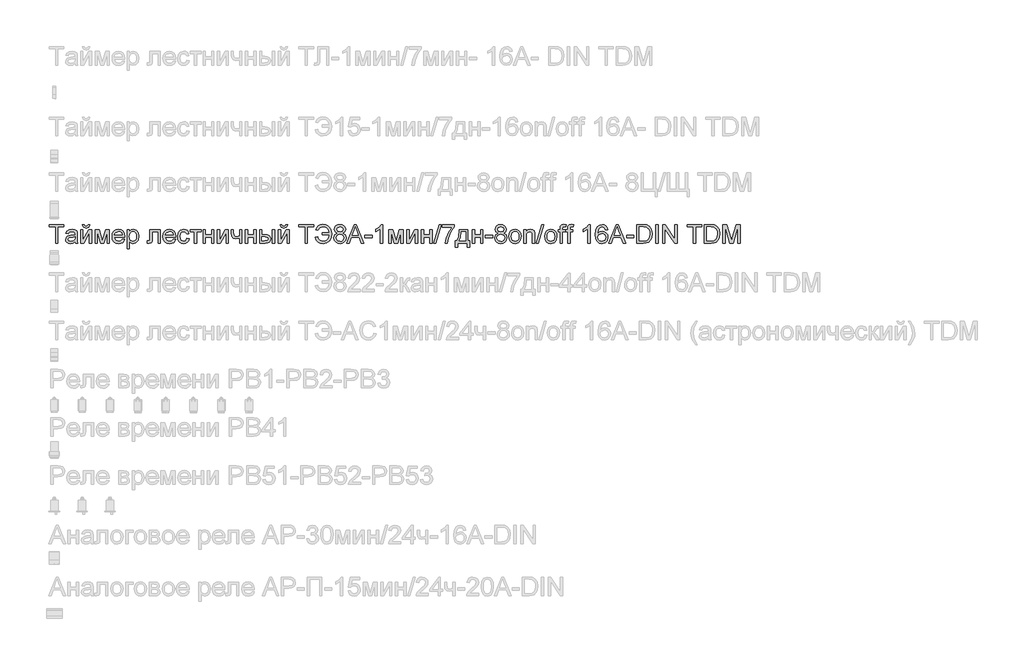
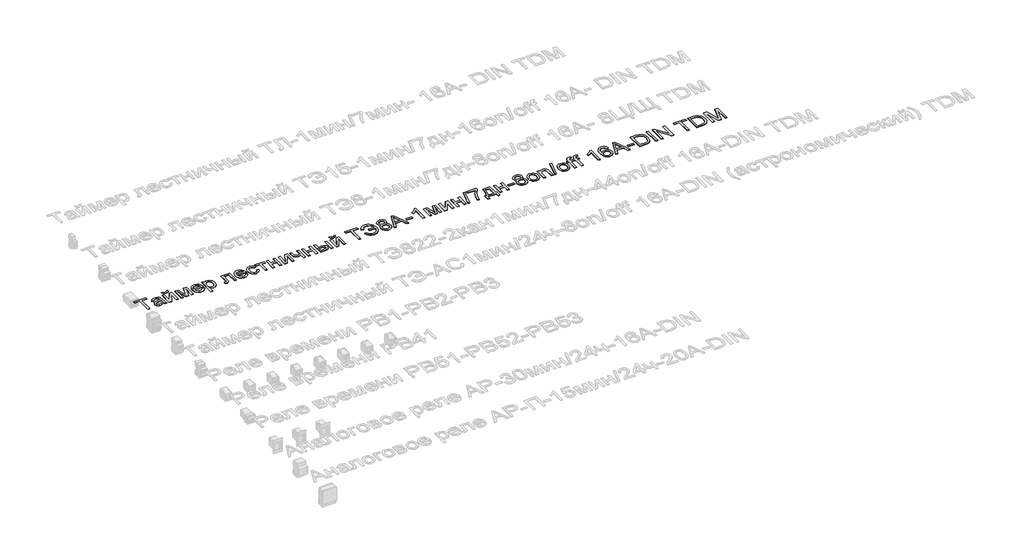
# One storey, part 30 of 34: 1 proxy.
"""IFC4 building model written with IfcOpenShell, lengths in millimetres."""

from ifc_helpers import new_model, si_unit, frame, origin, place, context, project, spatial, polyline, outline, extrude, element, save

model = new_model("IFC4")

# Units and contexts
model_context = context("Model", 3, world=origin())
ifc_project = project(units=[si_unit("LENGTHUNIT", "METRE", prefix="MILLI")], contexts=[model_context])

# Site, building, storey
site = spatial("IfcSite", under=ifc_project)
building = spatial("IfcBuilding", under=site)
storey = spatial("IfcBuildingStorey", under=building, Name="Этаж 01", Elevation=0.0)

# Proxy
placement = place(None, origin())
element("IfcBuildingElementProxy", 1, Name="Надпись на модели 1", ObjectType="Надпись на модели 1", at=placement, inside=storey, context=model_context, shape_type="SweptSolid", body=[
    extrude(outline(polyline([(-19013.8985135, 17576.235284), (-19013.8985135, 17664.1345554), (-19046.8607403, 17664.1345554), (-19046.8607403, 17676.6915941), (-18968.379248, 17676.6915941), (-18968.379248, 17664.1345554), (-19001.3414748, 17664.1345554), (-19001.3414748, 17576.235284), (-19013.8985135, 17576.235284)])), frame((0.0, 0.0, 40.0), z_axis=(0.0, 0.0, 1.0), x_axis=(1.0, 0.0, 0.0)), (0.0, 0.0, 1.0), 2.0),
    extrude(outline(polyline([(-18908.7333139, 17585.6530631), (-18920.9102079, 17577.1427262), (-18934.3624262, 17574.6656541), (-18944.8562601, 17576.1555762), (-18952.5971104, 17580.6253425), (-18957.3703793, 17587.4127653), (-18958.9614689, 17595.8556571), (-18956.5579732, 17605.7884709), (-18950.2426656, 17612.998958), (-18941.450286, 17617.1192364), (-18930.5855044, 17619.0076973), (-18908.8068903, 17623.3241794), (-18908.7333139, 17626.1200825), (-18912.1914046, 17635.3907088), (-18926.0728186, 17639.0204778), (-18938.7770101, 17636.6047194), (-18944.8348003, 17628.0330689), (-18957.3918391, 17629.6026988), (-18951.9594483, 17641.8654319), (-18941.0210903, 17649.0513936), (-18924.4541378, 17651.5775166), (-18909.2360859, 17649.3456992), (-18900.63991, 17643.7416301), (-18896.7894117, 17635.2190306), (-18896.1762751, 17624.2316216), (-18896.1762751, 17608.6088996), (-18895.538613, 17586.7934973), (-18893.0370154, 17576.235284), (-18905.5940542, 17576.235284), (-18908.7333139, 17585.6530631)]), holes=[polyline([(-18908.7333139, 17610.7671406), (-18928.9913491, 17606.9166424), (-18939.794817, 17604.8810287), (-18944.6876475, 17601.5700907), (-18946.4044302, 17596.7385739), (-18942.6642965, 17589.9450197), (-18931.6891504, 17587.2226929), (-18918.9849588, 17590.2270625), (-18910.793453, 17597.4988633), (-18908.8068903, 17607.210948), (-18908.7333139, 17610.7671406)])]), frame((0.0, 0.0, 40.0), z_axis=(0.0, 0.0, 1.0), x_axis=(1.0, 0.0, 0.0)), (0.0, 0.0, 1.0), 2.0),
    extrude(outline(polyline([(-18878.9103468, 17650.0078868), (-18866.353308, 17650.0078868), (-18866.353308, 17593.746467), (-18835.5002713, 17650.0078868), (-18819.2644126, 17650.0078868), (-18819.2644126, 17576.235284), (-18831.8214514, 17576.235284), (-18831.8214514, 17632.1533473), (-18862.4782843, 17576.235284), (-18878.9103468, 17576.235284), (-18878.9103468, 17650.0078868)])), frame((0.0, 0.0, 40.0), z_axis=(0.0, 0.0, 1.0), x_axis=(1.0, 0.0, 0.0)), (0.0, 0.0, 1.0), 2.0),
    extrude(outline(polyline([(-18838.0999708, 17676.6915941), (-18828.6821917, 17676.6915941), (-18834.7767701, 17662.7243411), (-18848.3025648, 17657.856036), (-18862.9442682, 17662.6875529), (-18869.4925677, 17676.6915941), (-18860.0747886, 17676.6915941), (-18856.5431215, 17669.6159971), (-18849.4307362, 17667.2738151), (-18841.6316379, 17669.5424207), (-18838.0999708, 17676.6915941)])), frame((0.0, 0.0, 40.0), z_axis=(0.0, 0.0, 1.0), x_axis=(1.0, 0.0, 0.0)), (0.0, 0.0, 1.0), 2.0),
    extrude(outline(polyline([(-18800.4288545, 17650.0078868), (-18778.8219186, 17650.0078868), (-18762.169127, 17590.9505638), (-18744.2164856, 17650.0078868), (-18723.516992, 17650.0078868), (-18723.516992, 17576.235284), (-18736.0740308, 17576.235284), (-18736.0740308, 17635.6359635), (-18754.124774, 17576.235284), (-18770.6058874, 17576.235284), (-18787.8718157, 17638.4809176), (-18787.8718157, 17576.235284), (-18800.4288545, 17576.235284), (-18800.4288545, 17650.0078868)])), frame((0.0, 0.0, 40.0), z_axis=(0.0, 0.0, 1.0), x_axis=(1.0, 0.0, 0.0)), (0.0, 0.0, 1.0), 2.0),
    extrude(outline(polyline([(-18653.0308017, 17598.2101018), (-18640.7190176, 17596.640472), (-18645.1550614, 17587.3637143), (-18652.2337241, 17580.4291387), (-18661.7955903, 17576.1065253), (-18673.6812444, 17574.6656541), (-18688.4149183, 17577.1519233), (-18699.7518151, 17584.6107308), (-18706.9806963, 17596.5576985), (-18709.3903234, 17612.5084487), (-18706.9561709, 17628.9956935), (-18699.6537133, 17641.3258717), (-18688.4701006, 17649.0146054), (-18674.3924829, 17651.5775166), (-18660.753258, 17649.0207367), (-18649.8547538, 17641.3503971), (-18642.7086461, 17629.0447444), (-18640.3266102, 17612.5820251), (-18640.4001866, 17609.1975108), (-18696.8332846, 17609.1975108), (-18694.6597152, 17599.7981258), (-18689.6105348, 17592.8880756), (-18682.3234056, 17588.6390386), (-18673.4359897, 17587.2226929), (-18661.1242056, 17589.8469178), (-18653.0308017, 17598.2101018)]), holes=[polyline([(-18696.8332846, 17621.7545495), (-18652.8836489, 17621.7545495), (-18657.9113695, 17633.1343659), (-18665.2322212, 17637.5489499), (-18674.4415339, 17639.0204778), (-18689.9048404, 17634.323851), (-18694.7700798, 17628.8332123), (-18696.8332846, 17621.7545495)])]), frame((0.0, 0.0, 40.0), z_axis=(0.0, 0.0, 1.0), x_axis=(1.0, 0.0, 0.0)), (0.0, 0.0, 1.0), 2.0),
    extrude(outline(polyline([(-18627.7695714, 17547.9819468), (-18627.7695714, 17650.0078868), (-18615.2125326, 17650.0078868), (-18615.2125326, 17637.6961027), (-18606.5305175, 17648.1071631), (-18594.8073446, 17651.5775166), (-18578.890317, 17646.7214743), (-18568.4915192, 17633.036264), (-18564.9843776, 17613.6856711), (-18568.9452404, 17593.3417968), (-18580.4476841, 17579.4849083), (-18596.3279235, 17574.6656541), (-18607.2540188, 17577.890753), (-18615.2125326, 17586.0454705), (-18615.2125326, 17547.9819468), (-18627.7695714, 17547.9819468)]), holes=[polyline([(-18615.2125326, 17612.5329742), (-18613.8544349, 17601.2757851), (-18609.7801418, 17593.4031104), (-18603.7683369, 17588.7677973), (-18596.5977037, 17587.2226929), (-18589.3105745, 17588.8229796), (-18583.1454854, 17593.6238396), (-18578.9424336, 17601.7846886), (-18577.5414163, 17613.4649419), (-18578.9087111, 17624.6608173), (-18583.0105953, 17632.6438566), (-18589.0132032, 17637.4263225), (-18596.0826689, 17639.0204778), (-18603.1797257, 17637.325155), (-18609.4122598, 17632.2391864), (-18613.7624644, 17623.9219876), (-18615.2125326, 17612.5329742)])]), frame((0.0, 0.0, 40.0), z_axis=(0.0, 0.0, 1.0), x_axis=(1.0, 0.0, 0.0)), (0.0, 0.0, 1.0), 2.0),
    extrude(outline(polyline([(-18505.3384434, 17650.0078868), (-18448.8317689, 17650.0078868), (-18448.8317689, 17576.3088604), (-18461.3888077, 17576.3088604), (-18461.3888077, 17637.450848), (-18492.7814046, 17637.450848), (-18492.7814046, 17602.2568038), (-18493.6275332, 17586.0209451), (-18498.2751091, 17579.1660772), (-18509.262518, 17576.235284), (-18519.465112, 17576.8729461), (-18519.465112, 17588.7923228), (-18513.8487802, 17588.7923228), (-18508.1711348, 17589.564875), (-18505.9025291, 17592.0174216), (-18505.3384434, 17602.9680423), (-18505.3384434, 17650.0078868)])), frame((0.0, 0.0, 40.0), z_axis=(0.0, 0.0, 1.0), x_axis=(1.0, 0.0, 0.0)), (0.0, 0.0, 1.0), 2.0),
    extrude(outline(polyline([(-18378.3455787, 17598.2101018), (-18366.0337946, 17596.640472), (-18370.4698383, 17587.3637143), (-18377.548501, 17580.4291387), (-18387.1103672, 17576.1065253), (-18398.9960213, 17574.6656541), (-18413.7296952, 17577.1519233), (-18425.0665921, 17584.6107308), (-18432.2954733, 17596.5576985), (-18434.7051003, 17612.5084487), (-18432.2709478, 17628.9956935), (-18424.9684902, 17641.3258717), (-18413.7848775, 17649.0146054), (-18399.7072599, 17651.5775166), (-18386.0680349, 17649.0207367), (-18375.1695308, 17641.3503971), (-18368.023423, 17629.0447444), (-18365.6413871, 17612.5820251), (-18365.7149635, 17609.1975108), (-18422.1480616, 17609.1975108), (-18419.9744921, 17599.7981258), (-18414.9253117, 17592.8880756), (-18407.6381825, 17588.6390386), (-18398.7507667, 17587.2226929), (-18386.4389826, 17589.8469178), (-18378.3455787, 17598.2101018)]), holes=[polyline([(-18422.1480616, 17621.7545495), (-18378.1984259, 17621.7545495), (-18383.2261465, 17633.1343659), (-18390.5469982, 17637.5489499), (-18399.7563108, 17639.0204778), (-18415.2196173, 17634.323851), (-18420.0848567, 17628.8332123), (-18422.1480616, 17621.7545495)])]), frame((0.0, 0.0, 40.0), z_axis=(0.0, 0.0, 1.0), x_axis=(1.0, 0.0, 0.0)), (0.0, 0.0, 1.0), 2.0),
    extrude(outline(polyline([(-18305.995453, 17602.9189914), (-18293.4384142, 17601.3493615), (-18296.9394245, 17590.1810773), (-18303.5183809, 17581.7412512), (-18312.5560152, 17576.4345534), (-18323.4330595, 17574.6656541), (-18336.7902416, 17577.1335292), (-18347.2350246, 17584.5371544), (-18353.9764622, 17596.5515672), (-18356.223608, 17612.8518052), (-18352.3853725, 17633.7107144), (-18340.6867251, 17647.1138817), (-18323.6047378, 17651.5775166), (-18312.9944079, 17650.044675), (-18304.5116622, 17645.44615), (-18298.4262809, 17638.0271964), (-18295.008044, 17628.0330689), (-18307.5650828, 17626.4634391), (-18313.3898811, 17635.8689554), (-18323.5066359, 17639.0204778), (-18331.6214996, 17637.4692421), (-18338.0625002, 17632.8155349), (-18342.265552, 17624.8079701), (-18343.6665693, 17613.1951618), (-18342.2962088, 17601.4260036), (-18338.1851275, 17593.3908477), (-18331.8606229, 17588.7647316), (-18323.8499925, 17587.2226929), (-18312.0164549, 17591.0731911), (-18305.995453, 17602.9189914)])), frame((0.0, 0.0, 40.0), z_axis=(0.0, 0.0, 1.0), x_axis=(1.0, 0.0, 0.0)), (0.0, 0.0, 1.0), 2.0),
    extrude(outline(polyline([(-18288.7295246, 17650.0078868), (-18229.0835905, 17650.0078868), (-18229.0835905, 17637.450848), (-18252.6280382, 17637.450848), (-18252.6280382, 17576.235284), (-18265.185077, 17576.235284), (-18265.185077, 17637.450848), (-18288.7295246, 17637.450848), (-18288.7295246, 17650.0078868)])), frame((0.0, 0.0, 40.0), z_axis=(0.0, 0.0, 1.0), x_axis=(1.0, 0.0, 0.0)), (0.0, 0.0, 1.0), 2.0),
    extrude(outline(polyline([(-18218.0961816, 17650.0078868), (-18205.5391428, 17650.0078868), (-18205.5391428, 17621.7545495), (-18172.576916, 17621.7545495), (-18172.576916, 17650.0078868), (-18160.0198773, 17650.0078868), (-18160.0198773, 17576.235284), (-18172.576916, 17576.235284), (-18172.576916, 17609.1975108), (-18205.5391428, 17609.1975108), (-18205.5391428, 17576.235284), (-18218.0961816, 17576.235284), (-18218.0961816, 17650.0078868)])), frame((0.0, 0.0, 40.0), z_axis=(0.0, 0.0, 1.0), x_axis=(1.0, 0.0, 0.0)), (0.0, 0.0, 1.0), 2.0),
    extrude(outline(polyline([(-18141.1843191, 17650.0078868), (-18128.6272803, 17650.0078868), (-18128.6272803, 17593.746467), (-18097.7742437, 17650.0078868), (-18081.538385, 17650.0078868), (-18081.538385, 17576.235284), (-18094.0954237, 17576.235284), (-18094.0954237, 17632.1533473), (-18124.7522567, 17576.235284), (-18141.1843191, 17576.235284), (-18141.1843191, 17650.0078868)])), frame((0.0, 0.0, 40.0), z_axis=(0.0, 0.0, 1.0), x_axis=(1.0, 0.0, 0.0)), (0.0, 0.0, 1.0), 2.0),
    extrude(outline(polyline([(-18067.4117163, 17650.0078868), (-18054.8546776, 17650.0078868), (-18054.8546776, 17635.8566927), (-18053.8368707, 17622.5884154), (-18048.9440402, 17615.4024537), (-18039.2319555, 17612.3367705), (-18021.8924508, 17616.1382177), (-18021.8924508, 17650.0078868), (-18009.335412, 17650.0078868), (-18009.335412, 17576.235284), (-18021.8924508, 17576.235284), (-18021.8924508, 17604.0962138), (-18042.5919444, 17599.7797317), (-18056.8289776, 17604.2801548), (-18065.2044244, 17615.3043519), (-18067.4117163, 17629.6517497), (-18067.4117163, 17650.0078868)])), frame((0.0, 0.0, 40.0), z_axis=(0.0, 0.0, 1.0), x_axis=(1.0, 0.0, 0.0)), (0.0, 0.0, 1.0), 2.0),
    extrude(outline(polyline([(-17990.4998539, 17650.0078868), (-17977.9428151, 17650.0078868), (-17977.9428151, 17621.7545495), (-17944.9805884, 17621.7545495), (-17944.9805884, 17650.0078868), (-17932.4235496, 17650.0078868), (-17932.4235496, 17576.235284), (-17944.9805884, 17576.235284), (-17944.9805884, 17609.1975108), (-17977.9428151, 17609.1975108), (-17977.9428151, 17576.235284), (-17990.4998539, 17576.235284), (-17990.4998539, 17650.0078868)])), frame((0.0, 0.0, 40.0), z_axis=(0.0, 0.0, 1.0), x_axis=(1.0, 0.0, 0.0)), (0.0, 0.0, 1.0), 2.0),
    extrude(outline(polyline([(-17844.5242782, 17650.0078868), (-17831.9672394, 17650.0078868), (-17831.9672394, 17576.235284), (-17844.5242782, 17576.235284), (-17844.5242782, 17650.0078868)])), frame((0.0, 0.0, 40.0), z_axis=(0.0, 0.0, 1.0), x_axis=(1.0, 0.0, 0.0)), (0.0, 0.0, 1.0), 2.0),
    extrude(outline(polyline([(-17913.5879914, 17650.0078868), (-17901.0309527, 17650.0078868), (-17901.0309527, 17623.3241794), (-17885.5063325, 17623.3241794), (-17872.0878367, 17621.7514838), (-17862.1458258, 17617.0333973), (-17855.9929994, 17609.5500643), (-17853.9420573, 17599.6816298), (-17855.6619056, 17590.6961121), (-17860.8214506, 17583.1146773), (-17869.7579174, 17577.9551323), (-17882.8085312, 17576.235284), (-17913.5879914, 17576.235284), (-17913.5879914, 17650.0078868)]), holes=[polyline([(-17901.0309527, 17588.7923228), (-17888.1305574, 17588.7923228), (-17871.4777657, 17591.4288104), (-17866.499096, 17599.6571044), (-17870.1901787, 17607.3826263), (-17886.4873511, 17610.7671406), (-17901.0309527, 17610.7671406), (-17901.0309527, 17588.7923228)])]), frame((0.0, 0.0, 40.0), z_axis=(0.0, 0.0, 1.0), x_axis=(1.0, 0.0, 0.0)), (0.0, 0.0, 1.0), 2.0),
    extrude(outline(polyline([(-17813.1316813, 17650.0078868), (-17800.5746425, 17650.0078868), (-17800.5746425, 17593.746467), (-17769.7216059, 17650.0078868), (-17753.4857471, 17650.0078868), (-17753.4857471, 17576.235284), (-17766.0427859, 17576.235284), (-17766.0427859, 17632.1533473), (-17796.6996188, 17576.235284), (-17813.1316813, 17576.235284), (-17813.1316813, 17650.0078868)])), frame((0.0, 0.0, 40.0), z_axis=(0.0, 0.0, 1.0), x_axis=(1.0, 0.0, 0.0)), (0.0, 0.0, 1.0), 2.0),
    extrude(outline(polyline([(-17772.3213053, 17676.6915941), (-17762.9035262, 17676.6915941), (-17768.9981046, 17662.7243411), (-17782.5238993, 17657.856036), (-17797.1656027, 17662.6875529), (-17803.7139022, 17676.6915941), (-17794.2961231, 17676.6915941), (-17790.764456, 17669.6159971), (-17783.6520707, 17667.2738151), (-17775.8529724, 17669.5424207), (-17772.3213053, 17676.6915941)])), frame((0.0, 0.0, 40.0), z_axis=(0.0, 0.0, 1.0), x_axis=(1.0, 0.0, 0.0)), (0.0, 0.0, 1.0), 2.0),
    extrude(outline(polyline([(-17668.7257354, 17576.235284), (-17668.7257354, 17664.1345554), (-17701.6879622, 17664.1345554), (-17701.6879622, 17676.6915941), (-17623.2064699, 17676.6915941), (-17623.2064699, 17664.1345554), (-17656.1686967, 17664.1345554), (-17656.1686967, 17576.235284), (-17668.7257354, 17576.235284)])), frame((0.0, 0.0, 40.0), z_axis=(0.0, 0.0, 1.0), x_axis=(1.0, 0.0, 0.0)), (0.0, 0.0, 1.0), 2.0),
    extrude(outline(polyline([(-17576.1175745, 17634.3115883), (-17538.4464582, 17634.3115883), (-17541.2117045, 17647.2641002), (-17547.8397118, 17657.2306366), (-17558.0300431, 17663.5857981), (-17571.4822614, 17665.7041852), (-17589.6985515, 17660.6028882), (-17599.6620222, 17645.2989972), (-17612.219061, 17648.4382569), (-17606.8479839, 17660.933982), (-17598.0923924, 17670.3640238), (-17586.3753508, 17676.2869239), (-17572.1199235, 17678.261224), (-17558.4285819, 17676.4494052), (-17546.7851168, 17671.0139487), (-17537.5359503, 17662.7611293), (-17531.0275046, 17652.4972216), (-17525.8894194, 17627.5670851), (-17528.2132074, 17606.9748904), (-17536.7051501, 17589.9327569), (-17551.3161967, 17578.4824298), (-17571.9972962, 17574.6656541), (-17587.0252757, 17576.7257933), (-17598.9998346, 17582.9062108), (-17607.920973, 17593.2069067), (-17613.7886908, 17607.6278809), (-17601.2316521, 17610.7671406), (-17596.9887464, 17600.4664447), (-17590.4649723, 17593.1088048), (-17581.6603299, 17588.6942209), (-17570.5748191, 17587.2226929), (-17558.0545686, 17589.5342181), (-17548.0113901, 17596.4687937), (-17541.2178359, 17607.4132831), (-17538.4464582, 17621.7545495), (-17576.1175745, 17621.7545495), (-17576.1175745, 17634.3115883)])), frame((0.0, 0.0, 40.0), z_axis=(0.0, 0.0, 1.0), x_axis=(1.0, 0.0, 0.0)), (0.0, 0.0, 1.0), 2.0),
    extrude(outline(polyline([(-17495.0363828, 17631.5647361), (-17506.4775128, 17639.3638344), (-17510.193121, 17651.5039402), (-17508.16977, 17661.3202581), (-17502.0997171, 17669.4320561), (-17492.6635439, 17674.8767096), (-17480.5418322, 17676.6915941), (-17468.346544, 17674.8337901), (-17458.7877435, 17669.2603778), (-17452.607326, 17661.0198211), (-17450.5471868, 17651.1605837), (-17454.2137441, 17639.3270462), (-17465.336043, 17631.5647361), (-17451.9819266, 17621.7177613), (-17447.4079271, 17605.4696399), (-17449.6765328, 17593.4644241), (-17456.4823497, 17583.543873), (-17466.991512, 17576.8852089), (-17480.3701539, 17574.6656541), (-17493.7487958, 17576.8944059), (-17504.2579581, 17583.5806612), (-17511.063775, 17593.5962485), (-17513.3323807, 17605.8129964), (-17508.5744402, 17622.4412626), (-17495.0363828, 17631.5647361)]), holes=[polyline([(-17497.6360822, 17651.1360582), (-17493.1847101, 17641.2768207), (-17480.2230011, 17637.450848), (-17467.5188095, 17641.2522953), (-17463.1042256, 17650.5719725), (-17467.6659623, 17660.2227435), (-17480.3701539, 17664.1345554), (-17493.1111337, 17660.3085826), (-17497.6360822, 17651.1360582)]), polyline([(-17500.7753419, 17606.2544548), (-17498.6784145, 17596.7998875), (-17491.259461, 17589.7242905), (-17480.272052, 17587.2226929), (-17471.724927, 17588.537871), (-17465.3115176, 17592.4834054), (-17459.9649659, 17605.8620473), (-17465.4831958, 17619.4982066), (-17472.0437581, 17623.5449086), (-17480.688985, 17624.8938092), (-17489.1165483, 17623.5633027), (-17495.4655784, 17619.571783), (-17500.7753419, 17606.2544548)])]), frame((0.0, 0.0, 40.0), z_axis=(0.0, 0.0, 1.0), x_axis=(1.0, 0.0, 0.0)), (0.0, 0.0, 1.0), 2.0),
    extrude(outline(polyline([(-17443.4102761, 17576.235284), (-17403.3111387, 17676.6915941), (-17392.6180353, 17676.6915941), (-17352.5188979, 17576.235284), (-17365.7871751, 17576.235284), (-17377.2896189, 17607.6278809), (-17418.6640806, 17607.6278809), (-17430.1419988, 17576.235284), (-17443.4102761, 17576.235284)]), holes=[polyline([(-17414.0532929, 17620.1849197), (-17381.8758811, 17620.1849197), (-17390.9257782, 17644.8820643), (-17397.964587, 17664.1345554), (-17404.2185809, 17647.0403053), (-17414.0532929, 17620.1849197)])]), frame((0.0, 0.0, 40.0), z_axis=(0.0, 0.0, 1.0), x_axis=(1.0, 0.0, 0.0)), (0.0, 0.0, 1.0), 2.0),
    extrude(outline(polyline([(-17346.951617, 17606.0582511), (-17346.951617, 17618.6152898), (-17307.7108708, 17618.6152898), (-17307.7108708, 17606.0582511), (-17346.951617, 17606.0582511)])), frame((0.0, 0.0, 40.0), z_axis=(0.0, 0.0, 1.0), x_axis=(1.0, 0.0, 0.0)), (0.0, 0.0, 1.0), 2.0),
    extrude(outline(polyline([(-17249.6345665, 17576.235284), (-17262.1916053, 17576.235284), (-17262.1916053, 17654.5205726), (-17274.0864565, 17646.0470239), (-17287.3056828, 17639.7071909), (-17287.3056828, 17651.5775166), (-17268.8993204, 17663.325215), (-17257.7279704, 17676.6915941), (-17249.6345665, 17676.6915941), (-17249.6345665, 17576.235284)])), frame((0.0, 0.0, 40.0), z_axis=(0.0, 0.0, 1.0), x_axis=(1.0, 0.0, 0.0)), (0.0, 0.0, 1.0), 2.0),
    extrude(outline(polyline([(-17216.6723398, 17650.0078868), (-17195.0654039, 17650.0078868), (-17178.4126123, 17590.9505638), (-17160.4599709, 17650.0078868), (-17139.7604773, 17650.0078868), (-17139.7604773, 17576.235284), (-17152.3175161, 17576.235284), (-17152.3175161, 17635.6359635), (-17170.3682593, 17576.235284), (-17186.8493727, 17576.235284), (-17204.115301, 17638.4809176), (-17204.115301, 17576.235284), (-17216.6723398, 17576.235284), (-17216.6723398, 17650.0078868)])), frame((0.0, 0.0, 40.0), z_axis=(0.0, 0.0, 1.0), x_axis=(1.0, 0.0, 0.0)), (0.0, 0.0, 1.0), 2.0),
    extrude(outline(polyline([(-17120.9249192, 17650.0078868), (-17108.3678804, 17650.0078868), (-17108.3678804, 17593.746467), (-17077.5148437, 17650.0078868), (-17061.278985, 17650.0078868), (-17061.278985, 17576.235284), (-17073.8360238, 17576.235284), (-17073.8360238, 17632.1533473), (-17104.4928567, 17576.235284), (-17120.9249192, 17576.235284), (-17120.9249192, 17650.0078868)])), frame((0.0, 0.0, 40.0), z_axis=(0.0, 0.0, 1.0), x_axis=(1.0, 0.0, 0.0)), (0.0, 0.0, 1.0), 2.0),
    extrude(outline(polyline([(-17042.4434269, 17650.0078868), (-17029.8863881, 17650.0078868), (-17029.8863881, 17621.7545495), (-16996.9241613, 17621.7545495), (-16996.9241613, 17650.0078868), (-16984.3671225, 17650.0078868), (-16984.3671225, 17576.235284), (-16996.9241613, 17576.235284), (-16996.9241613, 17609.1975108), (-17029.8863881, 17609.1975108), (-17029.8863881, 17576.235284), (-17042.4434269, 17576.235284), (-17042.4434269, 17650.0078868)])), frame((0.0, 0.0, 40.0), z_axis=(0.0, 0.0, 1.0), x_axis=(1.0, 0.0, 0.0)), (0.0, 0.0, 1.0), 2.0),
    extrude(outline(polyline([(-16974.9493435, 17576.235284), (-16946.6960062, 17676.6915941), (-16935.3652408, 17676.6915941), (-16963.618578, 17576.235284), (-16974.9493435, 17576.235284)])), frame((0.0, 0.0, 40.0), z_axis=(0.0, 0.0, 1.0), x_axis=(1.0, 0.0, 0.0)), (0.0, 0.0, 1.0), 2.0),
    extrude(outline(polyline([(-16929.4300779, 17662.5649255), (-16929.4300779, 17675.1219643), (-16863.5056244, 17675.1219643), (-16863.5056244, 17664.9684212), (-16882.2062925, 17637.9536201), (-16896.5169021, 17603.532128), (-16901.1767407, 17576.235284), (-16913.7337795, 17576.235284), (-16908.7428471, 17604.5621976), (-16895.0453741, 17636.5801939), (-16876.0626632, 17662.5649255), (-16929.4300779, 17662.5649255)])), frame((0.0, 0.0, 40.0), z_axis=(0.0, 0.0, 1.0), x_axis=(1.0, 0.0, 0.0)), (0.0, 0.0, 1.0), 2.0),
    extrude(outline(polyline([(-16838.3915469, 17650.0078868), (-16791.3026515, 17650.0078868), (-16791.3026515, 17588.7923228), (-16781.8848724, 17588.7923228), (-16781.8848724, 17555.830096), (-16794.4419112, 17555.830096), (-16794.4419112, 17576.235284), (-16846.2396961, 17576.235284), (-16846.2396961, 17555.830096), (-16858.7967349, 17555.830096), (-16858.7967349, 17588.7923228), (-16850.9485856, 17588.7923228), (-16841.2487637, 17612.7414406), (-16838.3915469, 17650.0078868)]), holes=[polyline([(-16827.4041379, 17637.450848), (-16830.3471939, 17608.8418915), (-16836.821917, 17588.7923228), (-16803.8596902, 17588.7923228), (-16803.8596902, 17637.450848), (-16827.4041379, 17637.450848)])]), frame((0.0, 0.0, 40.0), z_axis=(0.0, 0.0, 1.0), x_axis=(1.0, 0.0, 0.0)), (0.0, 0.0, 1.0), 2.0),
    extrude(outline(polyline([(-16767.7582038, 17650.0078868), (-16755.201165, 17650.0078868), (-16755.201165, 17621.7545495), (-16722.2389383, 17621.7545495), (-16722.2389383, 17650.0078868), (-16709.6818995, 17650.0078868), (-16709.6818995, 17576.235284), (-16722.2389383, 17576.235284), (-16722.2389383, 17609.1975108), (-16755.201165, 17609.1975108), (-16755.201165, 17576.235284), (-16767.7582038, 17576.235284), (-16767.7582038, 17650.0078868)])), frame((0.0, 0.0, 40.0), z_axis=(0.0, 0.0, 1.0), x_axis=(1.0, 0.0, 0.0)), (0.0, 0.0, 1.0), 2.0),
    extrude(outline(polyline([(-16697.1248607, 17606.0582511), (-16697.1248607, 17618.6152898), (-16657.8841146, 17618.6152898), (-16657.8841146, 17606.0582511), (-16697.1248607, 17606.0582511)])), frame((0.0, 0.0, 40.0), z_axis=(0.0, 0.0, 1.0), x_axis=(1.0, 0.0, 0.0)), (0.0, 0.0, 1.0), 2.0),
    extrude(outline(polyline([(-16628.6007077, 17631.5647361), (-16640.0418378, 17639.3638344), (-16643.7574459, 17651.5039402), (-16641.734095, 17661.3202581), (-16635.6640421, 17669.4320561), (-16626.2278689, 17674.8767096), (-16614.1061571, 17676.6915941), (-16601.910869, 17674.8337901), (-16592.3520685, 17669.2603778), (-16586.171651, 17661.0198211), (-16584.1115118, 17651.1605837), (-16587.778069, 17639.3270462), (-16598.900368, 17631.5647361), (-16585.5462516, 17621.7177613), (-16580.9722521, 17605.4696399), (-16583.2408577, 17593.4644241), (-16590.0466747, 17583.543873), (-16600.555837, 17576.8852089), (-16613.9344789, 17574.6656541), (-16627.3131208, 17576.8944059), (-16637.8222831, 17583.5806612), (-16644.6281, 17593.5962485), (-16646.8967056, 17605.8129964), (-16642.1387652, 17622.4412626), (-16628.6007077, 17631.5647361)]), holes=[polyline([(-16631.2004072, 17651.1360582), (-16626.749035, 17641.2768207), (-16613.7873261, 17637.450848), (-16601.0831345, 17641.2522953), (-16596.6685506, 17650.5719725), (-16601.2302873, 17660.2227435), (-16613.9344789, 17664.1345554), (-16626.6754586, 17660.3085826), (-16631.2004072, 17651.1360582)]), polyline([(-16634.3396669, 17606.2544548), (-16632.2427395, 17596.7998875), (-16624.8237859, 17589.7242905), (-16613.836377, 17587.2226929), (-16605.289252, 17588.537871), (-16598.8758425, 17592.4834054), (-16593.5292909, 17605.8620473), (-16599.0475208, 17619.4982066), (-16605.608083, 17623.5449086), (-16614.2533099, 17624.8938092), (-16622.6808733, 17623.5633027), (-16629.0299034, 17619.571783), (-16634.3396669, 17606.2544548)])]), frame((0.0, 0.0, 40.0), z_axis=(0.0, 0.0, 1.0), x_axis=(1.0, 0.0, 0.0)), (0.0, 0.0, 1.0), 2.0),
    extrude(outline(polyline([(-16569.9848432, 17613.1215854), (-16567.2686478, 17630.9086798), (-16559.1200616, 17643.4105363), (-16549.0523577, 17649.5357715), (-16536.9980909, 17651.5775166), (-16523.8064557, 17649.0912475), (-16513.2697023, 17641.63244), (-16506.3627178, 17629.7897054), (-16504.0603896, 17614.151655), (-16508.1316171, 17591.8089551), (-16519.98968, 17579.1660772), (-16536.9980909, 17574.6656541), (-16550.3491417, 17577.1427262), (-16560.8736324, 17584.5739426), (-16567.7070405, 17596.6649975), (-16569.9848432, 17613.1215854)]), holes=[polyline([(-16557.4278044, 17613.1461108), (-16555.9746705, 17601.7816229), (-16551.6152689, 17593.6851533), (-16545.0547066, 17588.838308), (-16536.9980909, 17587.2226929), (-16528.9782635, 17588.8475051), (-16522.4299639, 17593.7219415), (-16518.0705623, 17601.92571), (-16516.6174284, 17613.5385183), (-16518.0797593, 17624.5719125), (-16522.4667521, 17632.5580175), (-16529.0242487, 17637.4048627), (-16536.9980909, 17639.0204778), (-16545.0547066, 17637.4109941), (-16551.6152689, 17632.5825429), (-16555.9746705, 17624.5044674), (-16557.4278044, 17613.1461108)])]), frame((0.0, 0.0, 40.0), z_axis=(0.0, 0.0, 1.0), x_axis=(1.0, 0.0, 0.0)), (0.0, 0.0, 1.0), 2.0),
    extrude(outline(polyline([(-16489.933721, 17576.235284), (-16489.933721, 17650.0078868), (-16477.3766823, 17650.0078868), (-16477.3766823, 17639.7071909), (-16467.7749622, 17648.6099352), (-16454.6661004, 17651.5775166), (-16442.8080374, 17649.1862836), (-16434.7146336, 17642.9077643), (-16430.9499745, 17633.6739262), (-16430.2877869, 17621.5338203), (-16430.2877869, 17576.235284), (-16442.8448256, 17576.235284), (-16442.8448256, 17619.8415632), (-16444.2918282, 17630.9515994), (-16449.4053879, 17636.8254486), (-16458.0260893, 17639.0204778), (-16471.6499859, 17634.0908591), (-16475.9450082, 17626.947817), (-16477.3766823, 17615.3779283), (-16477.3766823, 17576.235284), (-16489.933721, 17576.235284)])), frame((0.0, 0.0, 40.0), z_axis=(0.0, 0.0, 1.0), x_axis=(1.0, 0.0, 0.0)), (0.0, 0.0, 1.0), 2.0),
    extrude(outline(polyline([(-16422.4396376, 17576.235284), (-16394.1863004, 17676.6915941), (-16382.855535, 17676.6915941), (-16411.1088722, 17576.235284), (-16422.4396376, 17576.235284)])), frame((0.0, 0.0, 40.0), z_axis=(0.0, 0.0, 1.0), x_axis=(1.0, 0.0, 0.0)), (0.0, 0.0, 1.0), 2.0),
    extrude(outline(polyline([(-16376.9203721, 17613.1215854), (-16374.2041767, 17630.9086798), (-16366.0555905, 17643.4105363), (-16355.9878866, 17649.5357715), (-16343.9336199, 17651.5775166), (-16330.7419847, 17649.0912475), (-16320.2052312, 17641.63244), (-16313.2982467, 17629.7897054), (-16310.9959186, 17614.151655), (-16315.067146, 17591.8089551), (-16326.925209, 17579.1660772), (-16343.9336199, 17574.6656541), (-16357.2846706, 17577.1427262), (-16367.8091614, 17584.5739426), (-16374.6425694, 17596.6649975), (-16376.9203721, 17613.1215854)]), holes=[polyline([(-16364.3633333, 17613.1461108), (-16362.9101995, 17601.7816229), (-16358.5507978, 17593.6851533), (-16351.9902356, 17588.838308), (-16343.9336199, 17587.2226929), (-16335.9137924, 17588.8475051), (-16329.3654929, 17593.7219415), (-16325.0060912, 17601.92571), (-16323.5529573, 17613.5385183), (-16325.0152883, 17624.5719125), (-16329.4022811, 17632.5580175), (-16335.9597776, 17637.4048627), (-16343.9336199, 17639.0204778), (-16351.9902356, 17637.4109941), (-16358.5507978, 17632.5825429), (-16362.9101995, 17624.5044674), (-16364.3633333, 17613.1461108)])]), frame((0.0, 0.0, 40.0), z_axis=(0.0, 0.0, 1.0), x_axis=(1.0, 0.0, 0.0)), (0.0, 0.0, 1.0), 2.0),
    extrude(outline(polyline([(-16252.9196143, 17576.235284), (-16252.9196143, 17637.450848), (-16263.9070232, 17637.450848), (-16263.9070232, 17650.0078868), (-16252.9196143, 17650.0078868), (-16252.9196143, 17657.4391031), (-16251.5952391, 17667.9114772), (-16245.1695669, 17675.3917444), (-16232.5144263, 17678.261224), (-16221.0610335, 17676.8877979), (-16222.9004435, 17665.115574), (-16230.135456, 17665.7041852), (-16238.0449189, 17663.6195206), (-16240.3625755, 17655.8449477), (-16240.3625755, 17650.0078868), (-16226.2359069, 17650.0078868), (-16226.2359069, 17637.450848), (-16240.3625755, 17637.450848), (-16240.3625755, 17576.235284), (-16252.9196143, 17576.235284)])), frame((0.0, 0.0, 40.0), z_axis=(0.0, 0.0, 1.0), x_axis=(1.0, 0.0, 0.0)), (0.0, 0.0, 1.0), 2.0),
    extrude(outline(polyline([(-16293.7299903, 17576.235284), (-16293.7299903, 17637.450848), (-16304.7173992, 17637.450848), (-16304.7173992, 17650.0078868), (-16293.7299903, 17650.0078868), (-16293.7299903, 17657.4391031), (-16292.4056151, 17667.9114772), (-16285.9799429, 17675.3917444), (-16273.3248023, 17678.261224), (-16261.8714095, 17676.8877979), (-16263.7108195, 17665.115574), (-16270.945832, 17665.7041852), (-16278.8552949, 17663.6195206), (-16281.1729515, 17655.8449477), (-16281.1729515, 17650.0078868), (-16267.0462829, 17650.0078868), (-16267.0462829, 17637.450848), (-16281.1729515, 17637.450848), (-16281.1729515, 17576.235284), (-16293.7299903, 17576.235284)])), frame((0.0, 0.0, 40.0), z_axis=(0.0, 0.0, 1.0), x_axis=(1.0, 0.0, 0.0)), (0.0, 0.0, 1.0), 2.0),
    extrude(outline(polyline([(-16132.0581161, 17576.235284), (-16144.6151549, 17576.235284), (-16144.6151549, 17654.5205726), (-16156.5100061, 17646.0470239), (-16169.7292324, 17639.7071909), (-16169.7292324, 17651.5775166), (-16151.3228699, 17663.325215), (-16140.15152, 17676.6915941), (-16132.0581161, 17676.6915941), (-16132.0581161, 17576.235284)])), frame((0.0, 0.0, 40.0), z_axis=(0.0, 0.0, 1.0), x_axis=(1.0, 0.0, 0.0)), (0.0, 0.0, 1.0), 2.0),
    extrude(outline(polyline([(-16037.8803254, 17650.0078868), (-16050.4373641, 17648.4382569), (-16055.1953046, 17658.910631), (-16067.7768688, 17664.1345554), (-16079.1076343, 17661.0933975), (-16087.6792848, 17649.676793), (-16091.2477401, 17627.2973049), (-16080.1744921, 17637.3159579), (-16066.4524936, 17640.5901077), (-16054.8519481, 17638.3521589), (-16045.1153379, 17631.6383125), (-16038.5118561, 17621.3805362), (-16036.3106955, 17608.5107977), (-16040.4554993, 17591.1835557), (-16051.8598412, 17578.9208226), (-16068.3164291, 17574.6656541), (-16082.5626594, 17577.4860828), (-16093.9087532, 17585.9473687), (-16101.3307725, 17600.8833777), (-16103.8047789, 17623.1279756), (-16101.0579267, 17648.13782), (-16092.81737, 17665.2382014), (-16081.5663123, 17673.8282459), (-16066.9920539, 17676.6915941), (-16055.9739882, 17674.9196292), (-16047.1509516, 17669.6037344), (-16040.9705341, 17661.1608426), (-16037.8803254, 17650.0078868)]), holes=[polyline([(-16091.2477401, 17608.7070014), (-16088.3414724, 17597.8299571), (-16080.6159505, 17589.9327569), (-16069.2974477, 17587.2226929), (-16061.0109058, 17588.6267759), (-16054.4963288, 17592.8390247), (-16050.2748829, 17599.4609006), (-16048.8677343, 17608.0938648), (-16050.2564888, 17616.3804067), (-16054.4227524, 17622.69878), (-16061.047694, 17626.6994967), (-16069.8124825, 17628.0330689), (-16085.0060089, 17622.69878), (-16089.6873073, 17616.5336909), (-16091.2477401, 17608.7070014)])]), frame((0.0, 0.0, 40.0), z_axis=(0.0, 0.0, 1.0), x_axis=(1.0, 0.0, 0.0)), (0.0, 0.0, 1.0), 2.0),
    extrude(outline(polyline([(-16032.3130445, 17576.235284), (-15992.213907, 17676.6915941), (-15981.5208037, 17676.6915941), (-15941.4216662, 17576.235284), (-15954.6899435, 17576.235284), (-15966.1923872, 17607.6278809), (-16007.566849, 17607.6278809), (-16019.0447672, 17576.235284), (-16032.3130445, 17576.235284)]), holes=[polyline([(-16002.9560613, 17620.1849197), (-15970.7786494, 17620.1849197), (-15979.8285465, 17644.8820643), (-15986.8673554, 17664.1345554), (-15993.1213493, 17647.0403053), (-16002.9560613, 17620.1849197)])]), frame((0.0, 0.0, 40.0), z_axis=(0.0, 0.0, 1.0), x_axis=(1.0, 0.0, 0.0)), (0.0, 0.0, 1.0), 2.0),
    extrude(outline(polyline([(-15935.8543854, 17606.0582511), (-15935.8543854, 17618.6152898), (-15896.6136392, 17618.6152898), (-15896.6136392, 17606.0582511), (-15935.8543854, 17606.0582511)])), frame((0.0, 0.0, 40.0), z_axis=(0.0, 0.0, 1.0), x_axis=(1.0, 0.0, 0.0)), (0.0, 0.0, 1.0), 2.0),
    extrude(outline(polyline([(-15880.9173407, 17576.235284), (-15880.9173407, 17676.6915941), (-15846.2628568, 17676.6915941), (-15828.3347409, 17675.2445916), (-15813.5704102, 17668.05863), (-15801.675559, 17650.8908035), (-15797.7269589, 17627.0029993), (-15800.4002347, 17606.7327014), (-15807.2673653, 17592.1032607), (-15816.4398897, 17582.99205), (-15828.4451055, 17577.9520666), (-15844.5951251, 17576.235284), (-15880.9173407, 17576.235284)]), holes=[polyline([(-15868.360302, 17588.7923228), (-15846.1402295, 17588.7923228), (-15829.9779472, 17590.6072073), (-15820.6582699, 17595.7330297), (-15813.0185872, 17608.2042294), (-15810.2839977, 17627.1992031), (-15811.6237013, 17640.8844133), (-15815.6428121, 17650.9889054), (-15828.6780974, 17662.1234671), (-15846.483586, 17664.1345554), (-15868.360302, 17664.1345554), (-15868.360302, 17588.7923228)])]), frame((0.0, 0.0, 40.0), z_axis=(0.0, 0.0, 1.0), x_axis=(1.0, 0.0, 0.0)), (0.0, 0.0, 1.0), 2.0),
    extrude(outline(polyline([(-15778.8914008, 17576.235284), (-15778.8914008, 17676.6915941), (-15766.334362, 17676.6915941), (-15766.334362, 17576.235284), (-15778.8914008, 17576.235284)])), frame((0.0, 0.0, 40.0), z_axis=(0.0, 0.0, 1.0), x_axis=(1.0, 0.0, 0.0)), (0.0, 0.0, 1.0), 2.0),
    extrude(outline(polyline([(-15741.2202844, 17576.235284), (-15741.2202844, 17676.6915941), (-15727.7803289, 17676.6915941), (-15675.2958309, 17597.1064559), (-15675.2958309, 17676.6915941), (-15662.7387921, 17676.6915941), (-15662.7387921, 17576.235284), (-15676.1787477, 17576.235284), (-15728.6632457, 17655.8449477), (-15728.6632457, 17576.235284), (-15741.2202844, 17576.235284)])), frame((0.0, 0.0, 40.0), z_axis=(0.0, 0.0, 1.0), x_axis=(1.0, 0.0, 0.0)), (0.0, 0.0, 1.0), 2.0),
    extrude(outline(polyline([(-15576.4091506, 17576.235284), (-15576.4091506, 17664.1345554), (-15609.3713774, 17664.1345554), (-15609.3713774, 17676.6915941), (-15530.8898851, 17676.6915941), (-15530.8898851, 17664.1345554), (-15563.8521118, 17664.1345554), (-15563.8521118, 17576.235284), (-15576.4091506, 17576.235284)])), frame((0.0, 0.0, 40.0), z_axis=(0.0, 0.0, 1.0), x_axis=(1.0, 0.0, 0.0)), (0.0, 0.0, 1.0), 2.0),
    extrude(outline(polyline([(-15516.7632165, 17576.235284), (-15516.7632165, 17676.6915941), (-15482.1087325, 17676.6915941), (-15464.1806166, 17675.2445916), (-15449.4162859, 17668.05863), (-15437.5214347, 17650.8908035), (-15433.5728346, 17627.0029993), (-15436.2461104, 17606.7327014), (-15443.113241, 17592.1032607), (-15452.2857654, 17582.99205), (-15464.2909812, 17577.9520666), (-15480.4410008, 17576.235284), (-15516.7632165, 17576.235284)]), holes=[polyline([(-15504.2061777, 17588.7923228), (-15481.9861052, 17588.7923228), (-15465.8238229, 17590.6072073), (-15456.5041456, 17595.7330297), (-15448.8644629, 17608.2042294), (-15446.1298734, 17627.1992031), (-15447.469577, 17640.8844133), (-15451.4886878, 17650.9889054), (-15464.5239731, 17662.1234671), (-15482.3294617, 17664.1345554), (-15504.2061777, 17664.1345554), (-15504.2061777, 17588.7923228)])]), frame((0.0, 0.0, 40.0), z_axis=(0.0, 0.0, 1.0), x_axis=(1.0, 0.0, 0.0)), (0.0, 0.0, 1.0), 2.0),
    extrude(outline(polyline([(-15416.3069063, 17576.235284), (-15416.3069063, 17676.6915941), (-15394.6999705, 17676.6915941), (-15374.1476297, 17605.8865728), (-15370.0028258, 17591.0977166), (-15365.5146655, 17607.1128461), (-15345.3056812, 17676.6915941), (-15323.6987454, 17676.6915941), (-15323.6987454, 17576.235284), (-15336.2557842, 17576.235284), (-15336.2557842, 17664.1345554), (-15361.492489, 17576.235284), (-15378.5131627, 17576.235284), (-15403.7498675, 17664.1345554), (-15403.7498675, 17576.235284), (-15416.3069063, 17576.235284)])), frame((0.0, 0.0, 40.0), z_axis=(0.0, 0.0, 1.0), x_axis=(1.0, 0.0, 0.0)), (0.0, 0.0, 1.0), 2.0),
])

save(model, "model.ifc")
